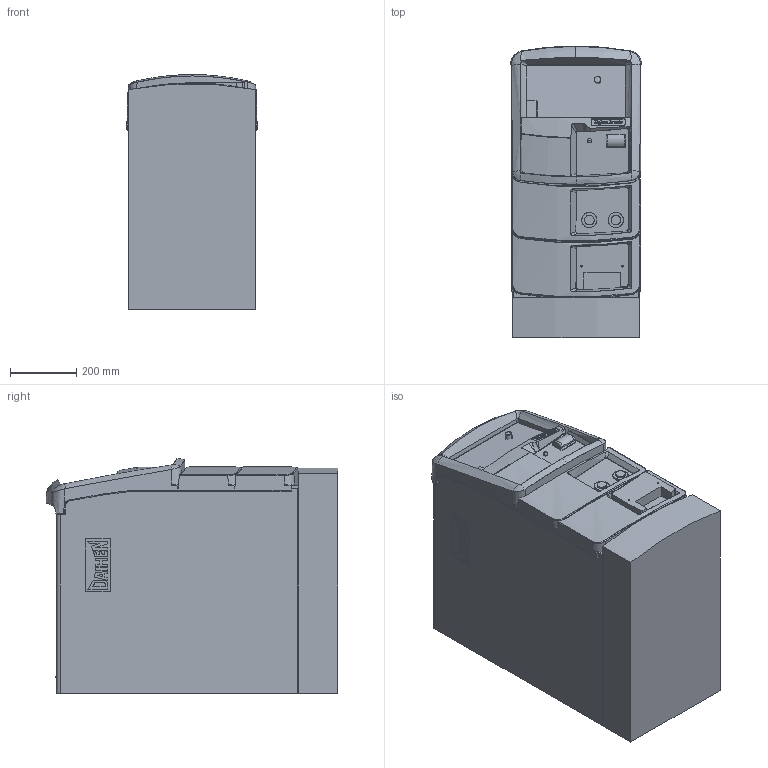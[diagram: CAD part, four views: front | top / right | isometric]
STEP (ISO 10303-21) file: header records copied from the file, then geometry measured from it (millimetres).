
FILE_DESCRIPTION (( 'STEP AP214' ), '1' );
FILE_NAME ('WB-P500L Detailed 2021 + Water Cooler Block.STEP', '2023-06-21T01:27:52', ( '' ), ( '' ), 'SwSTEP 2.0', 'SolidWorks 2022', '' );
FILE_SCHEMA (( 'AUTOMOTIVE_DESIGN' ));
Length unit declared in the file: millimetre
Products named in the file (3): WB-P500L Detailed 2021; Water Cooler Block, Mate to Bottom of P500L; WB-P500L Detailed 2021 + Water Cooler Block
Assembly tree (2 placements, depth 2):
  WB-P500L Detailed 2021 + Water Cooler Block
    WB-P500L Detailed 2021
    Water Cooler Block, Mate to Bottom of P500L
Bounding box: 394.75 x 881.51 x 710.2 mm (x, y, z)
Volume: 31020548.7 mm3; surface area: 5982863.7 mm2
Topology: 1 solids, 1288 shells, 1357 faces, 7001 edges, 6921 vertices
Faces by surface type: plane 824, cylinder 241, bspline 227, torus 47, cone 18
Entity records: 146667 total; most frequent: CARTESIAN_POINT 84131, DIRECTION 7170, ORIENTED_EDGE 7065, EDGE_CURVE 6989, VERTEX_POINT 6921, LINE 4000, VECTOR 4000, B_SPLINE_CURVE_WITH_KNOTS 2515
